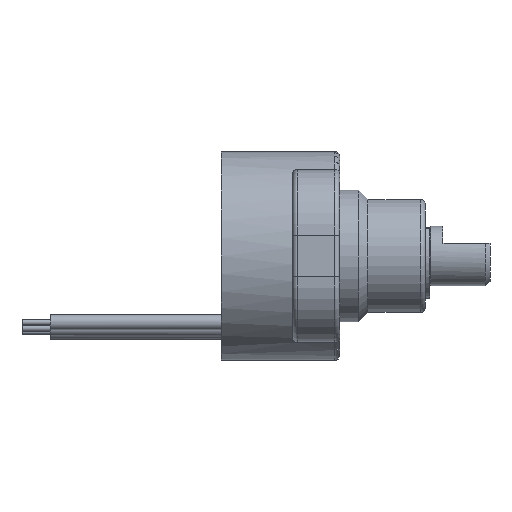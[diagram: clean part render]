
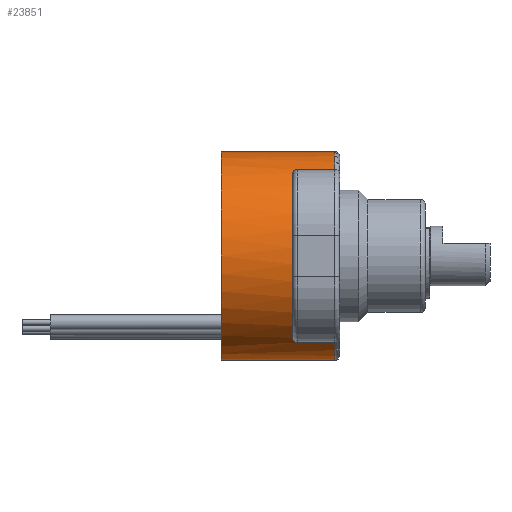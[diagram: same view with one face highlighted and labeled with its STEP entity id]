
A CAD part, left-side view. The second image highlights one B-rep face of the part: STEP entity #23851.
In plain terms, the highlighted cylindrical face has radius 11.1 mm (diameter 22.2 mm), a partial arc.
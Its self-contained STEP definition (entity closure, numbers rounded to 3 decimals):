
#744 = CIRCLE ( 'NONE', #21449, 11.1 ) ;
#1302 = EDGE_CURVE ( 'NONE', #19258, #27921, #6872, .T. ) ;
#1799 = DIRECTION ( 'NONE',  ( 0., 0., -1. ) ) ;
#2086 = CIRCLE ( 'NONE', #22824, 11.1 ) ;
#2215 = CARTESIAN_POINT ( 'NONE',  ( -6.893, 5., 8.7 ) ) ;
#2307 = CARTESIAN_POINT ( 'NONE',  ( -6.545, 4.928, 8.965 ) ) ;
#2582 = CARTESIAN_POINT ( 'NONE',  ( 0., 0.5, 0. ) ) ;
#2657 = CARTESIAN_POINT ( 'NONE',  ( -6.21, 4.5, -9.2 ) ) ;
#2900 = CARTESIAN_POINT ( 'NONE',  ( 0., 12.6, 0. ) ) ;
#3631 = EDGE_CURVE ( 'NONE', #23327, #29489, #8402, .T. ) ;
#3961 = LINE ( 'NONE', #15263, #6531 ) ;
#4117 = ORIENTED_EDGE ( 'NONE', *, *, #3631, .T. ) ;
#4350 = AXIS2_PLACEMENT_3D ( 'NONE', #2900, #14197, #25506 ) ;
#4505 = DIRECTION ( 'NONE',  ( 0., 0., 1. ) ) ;
#4576 = CYLINDRICAL_SURFACE ( 'NONE', #26667, 11.1 ) ;
#4881 = B_SPLINE_CURVE_WITH_KNOTS ( 'NONE', 3,
 ( #2657, #13955, #25268, #36578, #11181, #22479, #33795, #8398, #19716, #31024 ),
 .UNSPECIFIED., .F., .F.,
 ( 4, 2, 2, 2, 4 ),
 ( 0., 0., 0.001, 0.001, 0.001 ),
 .UNSPECIFIED. ) ;
#5095 = CARTESIAN_POINT ( 'NONE',  ( -6.823, 5., 8.756 ) ) ;
#6531 = VECTOR ( 'NONE', #26565, 1000. ) ;
#6872 = LINE ( 'NONE', #18176, #10423 ) ;
#8093 = EDGE_CURVE ( 'NONE', #18932, #33873, #744, .T. ) ;
#8171 = ORIENTED_EDGE ( 'NONE', *, *, #1302, .F. ) ;
#8192 = DIRECTION ( 'NONE',  ( 0., 0., -1. ) ) ;
#8398 = CARTESIAN_POINT ( 'NONE',  ( -6.753, 4.991, -8.81 ) ) ;
#8402 = LINE ( 'NONE', #19721, #17502 ) ;
#8695 = DIRECTION ( 'NONE',  ( 0., 1., 0. ) ) ;
#9032 = AXIS2_PLACEMENT_3D ( 'NONE', #2582, #13876, #25195 ) ;
#9483 = ORIENTED_EDGE ( 'NONE', *, *, #34363, .T. ) ;
#10334 = VERTEX_POINT ( 'NONE', #12540 ) ;
#10423 = VECTOR ( 'NONE', #29471, 1000. ) ;
#10484 = CARTESIAN_POINT ( 'NONE',  ( 0., 12.6, -11.1 ) ) ;
#10849 = CARTESIAN_POINT ( 'NONE',  ( -6.21, 4.591, 9.2 ) ) ;
#11181 = CARTESIAN_POINT ( 'NONE',  ( -6.414, 4.853, -9.06 ) ) ;
#11851 = EDGE_CURVE ( 'NONE', #29489, #27921, #25006, .T. ) ;
#12540 = CARTESIAN_POINT ( 'NONE',  ( -6.21, 4.5, -9.2 ) ) ;
#13221 = ORIENTED_EDGE ( 'NONE', *, *, #18676, .T. ) ;
#13615 = CARTESIAN_POINT ( 'NONE',  ( -6.414, 4.853, 9.06 ) ) ;
#13876 = DIRECTION ( 'NONE',  ( 0., 1., 0. ) ) ;
#13955 = CARTESIAN_POINT ( 'NONE',  ( -6.21, 4.591, -9.2 ) ) ;
#14197 = DIRECTION ( 'NONE',  ( 0., 1., 0. ) ) ;
#14579 = CARTESIAN_POINT ( 'NONE',  ( -6.21, 0.5, -9.2 ) ) ;
#14588 = ORIENTED_EDGE ( 'NONE', *, *, #11851, .T. ) ;
#15263 = CARTESIAN_POINT ( 'NONE',  ( 0., 12.6, -11.1 ) ) ;
#15892 = CARTESIAN_POINT ( 'NONE',  ( 0., 12.6, 0. ) ) ;
#16404 = CARTESIAN_POINT ( 'NONE',  ( -6.753, 4.991, 8.81 ) ) ;
#16506 = CARTESIAN_POINT ( 'NONE',  ( -6.893, 5., -8.7 ) ) ;
#17502 = VECTOR ( 'NONE', #31028, 1000. ) ;
#18176 = CARTESIAN_POINT ( 'NONE',  ( 0., 12.6, 11.1 ) ) ;
#18586 = CARTESIAN_POINT ( 'NONE',  ( 0., 0.5, 0. ) ) ;
#18587 = ORIENTED_EDGE ( 'NONE', *, *, #21248, .F. ) ;
#18668 = CARTESIAN_POINT ( 'NONE',  ( 0., 0.5, 11.1 ) ) ;
#18676 = EDGE_CURVE ( 'NONE', #33873, #10334, #22779, .T. ) ;
#18932 = VERTEX_POINT ( 'NONE', #21444 ) ;
#19137 = EDGE_CURVE ( 'NONE', #28349, #19258, #20357, .T. ) ;
#19258 = VERTEX_POINT ( 'NONE', #23279 ) ;
#19716 = CARTESIAN_POINT ( 'NONE',  ( -6.823, 5., -8.756 ) ) ;
#19721 = CARTESIAN_POINT ( 'NONE',  ( -6.21, 12.6, 9.2 ) ) ;
#20357 = CIRCLE ( 'NONE', #4350, 11.1 ) ;
#21248 = EDGE_CURVE ( 'NONE', #26289, #29287, #2086, .T. ) ;
#21397 = ORIENTED_EDGE ( 'NONE', *, *, #8093, .T. ) ;
#21444 = CARTESIAN_POINT ( 'NONE',  ( 0., 0.5, -11.1 ) ) ;
#21449 = AXIS2_PLACEMENT_3D ( 'NONE', #18586, #29891, #4505 ) ;
#22151 = CARTESIAN_POINT ( 'NONE',  ( -6.21, 4.5, 9.2 ) ) ;
#22288 = CARTESIAN_POINT ( 'NONE',  ( 0., 5., 0. ) ) ;
#22479 = CARTESIAN_POINT ( 'NONE',  ( -6.545, 4.928, -8.966 ) ) ;
#22779 = LINE ( 'NONE', #34099, #34533 ) ;
#22824 = AXIS2_PLACEMENT_3D ( 'NONE', #22288, #33590, #8192 ) ;
#23014 = ORIENTED_EDGE ( 'NONE', *, *, #30088, .T. ) ;
#23279 = CARTESIAN_POINT ( 'NONE',  ( 0., 12.6, 11.1 ) ) ;
#23327 = VERTEX_POINT ( 'NONE', #29306 ) ;
#23851 = ADVANCED_FACE ( 'NONE', ( #29971 ), #4576, .T. ) ;
#24922 = CARTESIAN_POINT ( 'NONE',  ( -6.351, 4.804, 9.104 ) ) ;
#24986 = B_SPLINE_CURVE_WITH_KNOTS ( 'NONE', 3,
 ( #30491, #5095, #16404, #27711, #2307, #13615, #24922, #36237, #10849, #22151 ),
 .UNSPECIFIED., .F., .F.,
 ( 4, 2, 2, 2, 4 ),
 ( 0., 0., 0.001, 0.001, 0.001 ),
 .UNSPECIFIED. ) ;
#25006 = CIRCLE ( 'NONE', #9032, 11.1 ) ;
#25195 = DIRECTION ( 'NONE',  ( 0., 0., 1. ) ) ;
#25268 = CARTESIAN_POINT ( 'NONE',  ( -6.249, 4.675, -9.174 ) ) ;
#25506 = DIRECTION ( 'NONE',  ( 0., 0., 1. ) ) ;
#26289 = VERTEX_POINT ( 'NONE', #2215 ) ;
#26565 = DIRECTION ( 'NONE',  ( 0., -1., 0. ) ) ;
#26667 = AXIS2_PLACEMENT_3D ( 'NONE', #15892, #27194, #1799 ) ;
#27194 = DIRECTION ( 'NONE',  ( 0., -1., 0. ) ) ;
#27204 = EDGE_CURVE ( 'NONE', #26289, #23327, #24986, .T. ) ;
#27711 = CARTESIAN_POINT ( 'NONE',  ( -6.615, 4.955, 8.914 ) ) ;
#27921 = VERTEX_POINT ( 'NONE', #18668 ) ;
#28349 = VERTEX_POINT ( 'NONE', #10484 ) ;
#29287 = VERTEX_POINT ( 'NONE', #16506 ) ;
#29306 = CARTESIAN_POINT ( 'NONE',  ( -6.21, 4.5, 9.2 ) ) ;
#29471 = DIRECTION ( 'NONE',  ( 0., -1., 0. ) ) ;
#29489 = VERTEX_POINT ( 'NONE', #31891 ) ;
#29891 = DIRECTION ( 'NONE',  ( 0., 1., 0. ) ) ;
#29971 = FACE_OUTER_BOUND ( 'NONE', #33623, .T. ) ;
#30088 = EDGE_CURVE ( 'NONE', #10334, #29287, #4881, .T. ) ;
#30491 = CARTESIAN_POINT ( 'NONE',  ( -6.893, 5., 8.7 ) ) ;
#30753 = ORIENTED_EDGE ( 'NONE', *, *, #27204, .T. ) ;
#31024 = CARTESIAN_POINT ( 'NONE',  ( -6.893, 5., -8.7 ) ) ;
#31028 = DIRECTION ( 'NONE',  ( 0., -1., 0. ) ) ;
#31891 = CARTESIAN_POINT ( 'NONE',  ( -6.21, 0.5, 9.2 ) ) ;
#33590 = DIRECTION ( 'NONE',  ( 0., -1., 0. ) ) ;
#33623 = EDGE_LOOP ( 'NONE', ( #8171, #33664, #9483, #21397, #13221, #23014, #18587, #30753, #4117, #14588 ) ) ;
#33664 = ORIENTED_EDGE ( 'NONE', *, *, #19137, .F. ) ;
#33795 = CARTESIAN_POINT ( 'NONE',  ( -6.614, 4.955, -8.915 ) ) ;
#33873 = VERTEX_POINT ( 'NONE', #14579 ) ;
#34099 = CARTESIAN_POINT ( 'NONE',  ( -6.21, 12.6, -9.2 ) ) ;
#34363 = EDGE_CURVE ( 'NONE', #28349, #18932, #3961, .T. ) ;
#34533 = VECTOR ( 'NONE', #8695, 1000. ) ;
#36237 = CARTESIAN_POINT ( 'NONE',  ( -6.249, 4.675, 9.174 ) ) ;
#36578 = CARTESIAN_POINT ( 'NONE',  ( -6.351, 4.804, -9.104 ) ) ;
